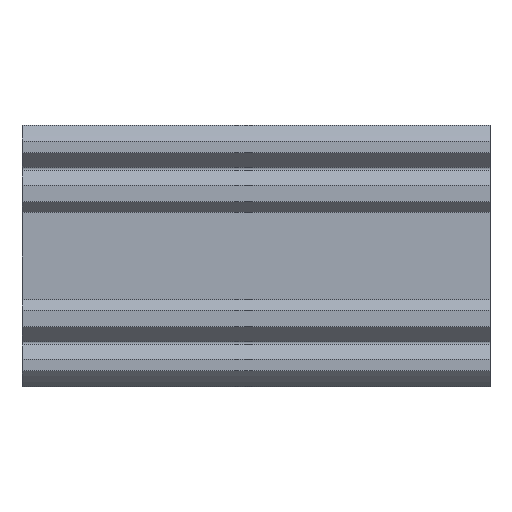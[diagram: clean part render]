
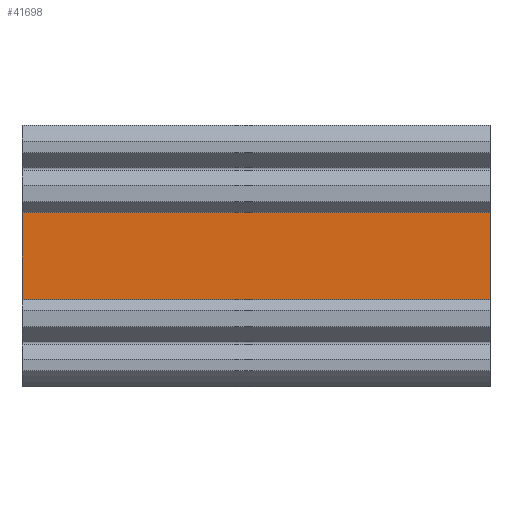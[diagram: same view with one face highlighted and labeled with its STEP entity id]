
A CAD part, left-side view. The second image highlights one B-rep face of the part: STEP entity #41698.
In plain terms, the highlighted planar face has unit normal (-1, 0, 0).
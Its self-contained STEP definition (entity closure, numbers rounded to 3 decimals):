
#248 = VECTOR ( 'NONE', #39713, 1000. ) ;
#468 = CARTESIAN_POINT ( 'NONE',  ( -8., -21.5, 5.525 ) ) ;
#760 = CARTESIAN_POINT ( 'NONE',  ( -8., -21.5, 5.525 ) ) ;
#1475 = LINE ( 'NONE', #468, #248 ) ;
#3736 = PLANE ( 'NONE',  #51034 ) ;
#5476 = CARTESIAN_POINT ( 'NONE',  ( -8., -21.5, 5.525 ) ) ;
#6284 = ORIENTED_EDGE ( 'NONE', *, *, #36415, .F. ) ;
#8141 = LINE ( 'NONE', #14746, #40274 ) ;
#9034 = EDGE_CURVE ( 'NONE', #51062, #37628, #8141, .T. ) ;
#9167 = ORIENTED_EDGE ( 'NONE', *, *, #9034, .T. ) ;
#11950 = CARTESIAN_POINT ( 'NONE',  ( -8., -21.5, -5.525 ) ) ;
#12011 = ORIENTED_EDGE ( 'NONE', *, *, #38716, .F. ) ;
#13005 = VERTEX_POINT ( 'NONE', #11950 ) ;
#13385 = DIRECTION ( 'NONE',  ( 0., 0., -1. ) ) ;
#14746 = CARTESIAN_POINT ( 'NONE',  ( -8., 21.5, 5.525 ) ) ;
#16808 = ORIENTED_EDGE ( 'NONE', *, *, #23730, .T. ) ;
#21044 = CARTESIAN_POINT ( 'NONE',  ( -8., -21.5, -5.525 ) ) ;
#23730 = EDGE_CURVE ( 'NONE', #28280, #51062, #1475, .T. ) ;
#25381 = DIRECTION ( 'NONE',  ( 0., 1., 0. ) ) ;
#26793 = CARTESIAN_POINT ( 'NONE',  ( -8., 21.5, 5.525 ) ) ;
#28280 = VERTEX_POINT ( 'NONE', #5476 ) ;
#30934 = CARTESIAN_POINT ( 'NONE',  ( -8., -21.5, 5.525 ) ) ;
#32156 = LINE ( 'NONE', #760, #48092 ) ;
#36415 = EDGE_CURVE ( 'NONE', #13005, #37628, #37081, .T. ) ;
#37081 = LINE ( 'NONE', #21044, #45037 ) ;
#37628 = VERTEX_POINT ( 'NONE', #43318 ) ;
#38512 = DIRECTION ( 'NONE',  ( 0., 0., -1. ) ) ;
#38716 = EDGE_CURVE ( 'NONE', #28280, #13005, #32156, .T. ) ;
#39713 = DIRECTION ( 'NONE',  ( 0., 1., 0. ) ) ;
#40274 = VECTOR ( 'NONE', #38512, 1000. ) ;
#41698 = ADVANCED_FACE ( 'NONE', ( #42310 ), #3736, .F. ) ;
#42310 = FACE_OUTER_BOUND ( 'NONE', #45654, .T. ) ;
#42728 = DIRECTION ( 'NONE',  ( 1., 0., 0. ) ) ;
#43318 = CARTESIAN_POINT ( 'NONE',  ( -8., 21.5, -5.525 ) ) ;
#45037 = VECTOR ( 'NONE', #25381, 1000. ) ;
#45654 = EDGE_LOOP ( 'NONE', ( #9167, #6284, #12011, #16808 ) ) ;
#48092 = VECTOR ( 'NONE', #13385, 1000. ) ;
#50654 = DIRECTION ( 'NONE',  ( 0., 0., -1. ) ) ;
#51034 = AXIS2_PLACEMENT_3D ( 'NONE', #30934, #42728, #50654 ) ;
#51062 = VERTEX_POINT ( 'NONE', #26793 ) ;
